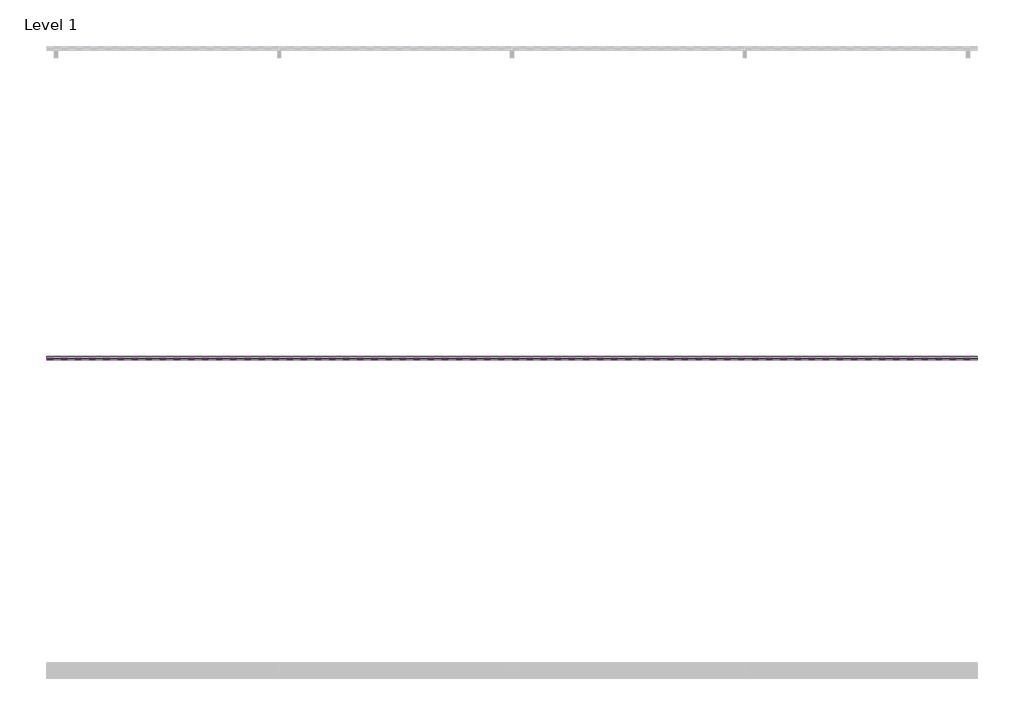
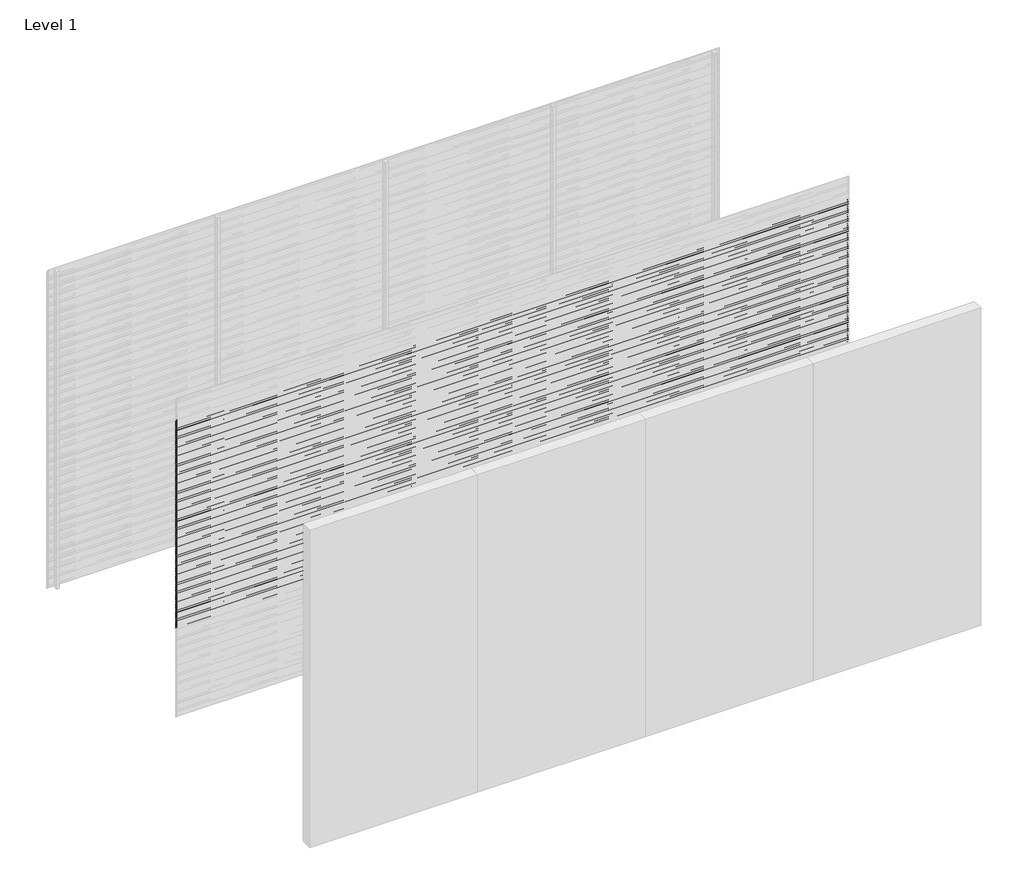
# One storey, part 17 of 31: 98 proxies.
"""IFC4 building model written with IfcOpenShell, lengths in millimetres."""

from ifc_helpers import new_model, si_unit, frame, origin, place, context, project, spatial, polyline, outline, extrude, element, save

model = new_model("IFC4")

# Units and contexts
model_context = context("Model", 3, world=origin())
ifc_project = project(units=[si_unit("LENGTHUNIT", "METRE", prefix="MILLI")], contexts=[model_context])

# Site, building, storey
site = spatial("IfcSite", under=ifc_project)
building = spatial("IfcBuilding", under=site)
storey = spatial("IfcBuildingStorey", under=building, Name="Level 1", Elevation=0.0)

# Proxies
placement = place(None, origin())
element("IfcBuildingElementProxy", 1, Name="Wall Sweeps", at=placement, inside=storey, context=model_context, shape_type="SweptSolid", body=[
    extrude(outline(polyline([(-7995.0, 2800.0), (-7995.0, 2788.942893), (-7976.0, 2773.0), (-7976.0, 2760.0), (-7997.0, 2777.6210923), (-7997.0, 2800.0), (-7995.0, 2800.0)])), frame((0.0, 0.0, 0.0), z_axis=(1.0, 0.0, 0.0), x_axis=(0.0, 1.0, 0.0)), (0.0, 0.0, 1.0), 6000.0),
])
element("IfcBuildingElementProxy", 2, Name="Wall Sweeps", at=placement, inside=storey, context=model_context, shape_type="SweptSolid", body=[
    extrude(outline(polyline([(-7995.0, 2780.0), (-7995.0, 2768.942893), (-7976.0, 2753.0), (-7976.0, 2740.0), (-7997.0, 2757.6210923), (-7997.0, 2780.0), (-7995.0, 2780.0)])), frame((0.0, 0.0, 0.0), z_axis=(1.0, 0.0, 0.0), x_axis=(0.0, 1.0, 0.0)), (0.0, 0.0, 1.0), 6000.0),
])
element("IfcBuildingElementProxy", 3, Name="Wall Sweeps", at=placement, inside=storey, context=model_context, shape_type="SweptSolid", body=[
    extrude(outline(polyline([(-7995.0, 2760.0), (-7995.0, 2748.942893), (-7976.0, 2733.0), (-7976.0, 2720.0), (-7997.0, 2737.6210923), (-7997.0, 2760.0), (-7995.0, 2760.0)])), frame((0.0, 0.0, 0.0), z_axis=(1.0, 0.0, 0.0), x_axis=(0.0, 1.0, 0.0)), (0.0, 0.0, 1.0), 6000.0),
])
element("IfcBuildingElementProxy", 4, Name="Wall Sweeps", at=placement, inside=storey, context=model_context, shape_type="SweptSolid", body=[
    extrude(outline(polyline([(-7995.0, 2740.0), (-7995.0, 2728.942893), (-7976.0, 2713.0), (-7976.0, 2700.0), (-7997.0, 2717.6210923), (-7997.0, 2740.0), (-7995.0, 2740.0)])), frame((0.0, 0.0, 0.0), z_axis=(1.0, 0.0, 0.0), x_axis=(0.0, 1.0, 0.0)), (0.0, 0.0, 1.0), 6000.0),
])
element("IfcBuildingElementProxy", 5, Name="Wall Sweeps", at=placement, inside=storey, context=model_context, shape_type="SweptSolid", body=[
    extrude(outline(polyline([(-7995.0, 2720.0), (-7995.0, 2708.942893), (-7976.0, 2693.0), (-7976.0, 2680.0), (-7997.0, 2697.6210923), (-7997.0, 2720.0), (-7995.0, 2720.0)])), frame((0.0, 0.0, 0.0), z_axis=(1.0, 0.0, 0.0), x_axis=(0.0, 1.0, 0.0)), (0.0, 0.0, 1.0), 6000.0),
])
element("IfcBuildingElementProxy", 6, Name="Wall Sweeps", at=placement, inside=storey, context=model_context, shape_type="SweptSolid", body=[
    extrude(outline(polyline([(-7995.0, 2700.0), (-7995.0, 2688.942893), (-7976.0, 2673.0), (-7976.0, 2660.0), (-7997.0, 2677.6210923), (-7997.0, 2700.0), (-7995.0, 2700.0)])), frame((0.0, 0.0, 0.0), z_axis=(1.0, 0.0, 0.0), x_axis=(0.0, 1.0, 0.0)), (0.0, 0.0, 1.0), 6000.0),
])
element("IfcBuildingElementProxy", 7, Name="Wall Sweeps", at=placement, inside=storey, context=model_context, shape_type="SweptSolid", body=[
    extrude(outline(polyline([(-7995.0, 2680.0), (-7995.0, 2668.942893), (-7976.0, 2653.0), (-7976.0, 2640.0), (-7997.0, 2657.6210923), (-7997.0, 2680.0), (-7995.0, 2680.0)])), frame((0.0, 0.0, 0.0), z_axis=(1.0, 0.0, 0.0), x_axis=(0.0, 1.0, 0.0)), (0.0, 0.0, 1.0), 6000.0),
])
element("IfcBuildingElementProxy", 8, Name="Wall Sweeps", at=placement, inside=storey, context=model_context, shape_type="SweptSolid", body=[
    extrude(outline(polyline([(-7995.0, 2660.0), (-7995.0, 2648.942893), (-7976.0, 2633.0), (-7976.0, 2620.0), (-7997.0, 2637.6210923), (-7997.0, 2660.0), (-7995.0, 2660.0)])), frame((0.0, 0.0, 0.0), z_axis=(1.0, 0.0, 0.0), x_axis=(0.0, 1.0, 0.0)), (0.0, 0.0, 1.0), 6000.0),
])
element("IfcBuildingElementProxy", 9, Name="Wall Sweeps", at=placement, inside=storey, context=model_context, shape_type="SweptSolid", body=[
    extrude(outline(polyline([(-7995.0, 2640.0), (-7995.0, 2628.942893), (-7976.0, 2613.0), (-7976.0, 2600.0), (-7997.0, 2617.6210923), (-7997.0, 2640.0), (-7995.0, 2640.0)])), frame((0.0, 0.0, 0.0), z_axis=(1.0, 0.0, 0.0), x_axis=(0.0, 1.0, 0.0)), (0.0, 0.0, 1.0), 6000.0),
])
element("IfcBuildingElementProxy", 10, Name="Wall Sweeps", at=placement, inside=storey, context=model_context, shape_type="SweptSolid", body=[
    extrude(outline(polyline([(-7995.0, 2620.0), (-7995.0, 2608.942893), (-7976.0, 2593.0), (-7976.0, 2580.0), (-7997.0, 2597.6210923), (-7997.0, 2620.0), (-7995.0, 2620.0)])), frame((0.0, 0.0, 0.0), z_axis=(1.0, 0.0, 0.0), x_axis=(0.0, 1.0, 0.0)), (0.0, 0.0, 1.0), 6000.0),
])
element("IfcBuildingElementProxy", 11, Name="Wall Sweeps", at=placement, inside=storey, context=model_context, shape_type="SweptSolid", body=[
    extrude(outline(polyline([(-7995.0, 2600.0), (-7995.0, 2588.942893), (-7976.0, 2573.0), (-7976.0, 2560.0), (-7997.0, 2577.6210923), (-7997.0, 2600.0), (-7995.0, 2600.0)])), frame((0.0, 0.0, 0.0), z_axis=(1.0, 0.0, 0.0), x_axis=(0.0, 1.0, 0.0)), (0.0, 0.0, 1.0), 6000.0),
])
element("IfcBuildingElementProxy", 12, Name="Wall Sweeps", at=placement, inside=storey, context=model_context, shape_type="SweptSolid", body=[
    extrude(outline(polyline([(-7995.0, 2580.0), (-7995.0, 2568.942893), (-7976.0, 2553.0), (-7976.0, 2540.0), (-7997.0, 2557.6210923), (-7997.0, 2580.0), (-7995.0, 2580.0)])), frame((0.0, 0.0, 0.0), z_axis=(1.0, 0.0, 0.0), x_axis=(0.0, 1.0, 0.0)), (0.0, 0.0, 1.0), 6000.0),
])
element("IfcBuildingElementProxy", 13, Name="Wall Sweeps", at=placement, inside=storey, context=model_context, shape_type="SweptSolid", body=[
    extrude(outline(polyline([(-7995.0, 2560.0), (-7995.0, 2548.942893), (-7976.0, 2533.0), (-7976.0, 2520.0), (-7997.0, 2537.6210923), (-7997.0, 2560.0), (-7995.0, 2560.0)])), frame((0.0, 0.0, 0.0), z_axis=(1.0, 0.0, 0.0), x_axis=(0.0, 1.0, 0.0)), (0.0, 0.0, 1.0), 6000.0),
])
element("IfcBuildingElementProxy", 14, Name="Wall Sweeps", at=placement, inside=storey, context=model_context, shape_type="SweptSolid", body=[
    extrude(outline(polyline([(-7995.0, 2540.0), (-7995.0, 2528.942893), (-7976.0, 2513.0), (-7976.0, 2500.0), (-7997.0, 2517.6210923), (-7997.0, 2540.0), (-7995.0, 2540.0)])), frame((0.0, 0.0, 0.0), z_axis=(1.0, 0.0, 0.0), x_axis=(0.0, 1.0, 0.0)), (0.0, 0.0, 1.0), 6000.0),
])
element("IfcBuildingElementProxy", 15, Name="Wall Sweeps", at=placement, inside=storey, context=model_context, shape_type="SweptSolid", body=[
    extrude(outline(polyline([(-7995.0, 2520.0), (-7995.0, 2508.942893), (-7976.0, 2493.0), (-7976.0, 2480.0), (-7997.0, 2497.6210923), (-7997.0, 2520.0), (-7995.0, 2520.0)])), frame((0.0, 0.0, 0.0), z_axis=(1.0, 0.0, 0.0), x_axis=(0.0, 1.0, 0.0)), (0.0, 0.0, 1.0), 6000.0),
])
element("IfcBuildingElementProxy", 16, Name="Wall Sweeps", at=placement, inside=storey, context=model_context, shape_type="SweptSolid", body=[
    extrude(outline(polyline([(-7995.0, 2500.0), (-7995.0, 2488.942893), (-7976.0, 2473.0), (-7976.0, 2460.0), (-7997.0, 2477.6210923), (-7997.0, 2500.0), (-7995.0, 2500.0)])), frame((0.0, 0.0, 0.0), z_axis=(1.0, 0.0, 0.0), x_axis=(0.0, 1.0, 0.0)), (0.0, 0.0, 1.0), 6000.0),
])
element("IfcBuildingElementProxy", 17, Name="Wall Sweeps", at=placement, inside=storey, context=model_context, shape_type="SweptSolid", body=[
    extrude(outline(polyline([(-7995.0, 2480.0), (-7995.0, 2468.942893), (-7976.0, 2453.0), (-7976.0, 2440.0), (-7997.0, 2457.6210923), (-7997.0, 2480.0), (-7995.0, 2480.0)])), frame((0.0, 0.0, 0.0), z_axis=(1.0, 0.0, 0.0), x_axis=(0.0, 1.0, 0.0)), (0.0, 0.0, 1.0), 6000.0),
])
element("IfcBuildingElementProxy", 18, Name="Wall Sweeps", at=placement, inside=storey, context=model_context, shape_type="SweptSolid", body=[
    extrude(outline(polyline([(-7995.0, 2460.0), (-7995.0, 2448.942893), (-7976.0, 2433.0), (-7976.0, 2420.0), (-7997.0, 2437.6210923), (-7997.0, 2460.0), (-7995.0, 2460.0)])), frame((0.0, 0.0, 0.0), z_axis=(1.0, 0.0, 0.0), x_axis=(0.0, 1.0, 0.0)), (0.0, 0.0, 1.0), 6000.0),
])
element("IfcBuildingElementProxy", 19, Name="Wall Sweeps", at=placement, inside=storey, context=model_context, shape_type="SweptSolid", body=[
    extrude(outline(polyline([(-7995.0, 2440.0), (-7995.0, 2428.942893), (-7976.0, 2413.0), (-7976.0, 2400.0), (-7997.0, 2417.6210923), (-7997.0, 2440.0), (-7995.0, 2440.0)])), frame((0.0, 0.0, 0.0), z_axis=(1.0, 0.0, 0.0), x_axis=(0.0, 1.0, 0.0)), (0.0, 0.0, 1.0), 6000.0),
])
element("IfcBuildingElementProxy", 20, Name="Wall Sweeps", at=placement, inside=storey, context=model_context, shape_type="SweptSolid", body=[
    extrude(outline(polyline([(-7995.0, 2420.0), (-7995.0, 2408.942893), (-7976.0, 2393.0), (-7976.0, 2380.0), (-7997.0, 2397.6210923), (-7997.0, 2420.0), (-7995.0, 2420.0)])), frame((0.0, 0.0, 0.0), z_axis=(1.0, 0.0, 0.0), x_axis=(0.0, 1.0, 0.0)), (0.0, 0.0, 1.0), 6000.0),
])
element("IfcBuildingElementProxy", 21, Name="Wall Sweeps", at=placement, inside=storey, context=model_context, shape_type="SweptSolid", body=[
    extrude(outline(polyline([(-7995.0, 2400.0), (-7995.0, 2388.942893), (-7976.0, 2373.0), (-7976.0, 2360.0), (-7997.0, 2377.6210923), (-7997.0, 2400.0), (-7995.0, 2400.0)])), frame((0.0, 0.0, 0.0), z_axis=(1.0, 0.0, 0.0), x_axis=(0.0, 1.0, 0.0)), (0.0, 0.0, 1.0), 6000.0),
])
element("IfcBuildingElementProxy", 22, Name="Wall Sweeps", at=placement, inside=storey, context=model_context, shape_type="SweptSolid", body=[
    extrude(outline(polyline([(-7995.0, 2380.0), (-7995.0, 2368.942893), (-7976.0, 2353.0), (-7976.0, 2340.0), (-7997.0, 2357.6210923), (-7997.0, 2380.0), (-7995.0, 2380.0)])), frame((0.0, 0.0, 0.0), z_axis=(1.0, 0.0, 0.0), x_axis=(0.0, 1.0, 0.0)), (0.0, 0.0, 1.0), 6000.0),
])
element("IfcBuildingElementProxy", 23, Name="Wall Sweeps", at=placement, inside=storey, context=model_context, shape_type="SweptSolid", body=[
    extrude(outline(polyline([(-7995.0, 2360.0), (-7995.0, 2348.942893), (-7976.0, 2333.0), (-7976.0, 2320.0), (-7997.0, 2337.6210923), (-7997.0, 2360.0), (-7995.0, 2360.0)])), frame((0.0, 0.0, 0.0), z_axis=(1.0, 0.0, 0.0), x_axis=(0.0, 1.0, 0.0)), (0.0, 0.0, 1.0), 6000.0),
])
element("IfcBuildingElementProxy", 24, Name="Wall Sweeps", at=placement, inside=storey, context=model_context, shape_type="SweptSolid", body=[
    extrude(outline(polyline([(-7995.0, 2340.0), (-7995.0, 2328.942893), (-7976.0, 2313.0), (-7976.0, 2300.0), (-7997.0, 2317.6210923), (-7997.0, 2340.0), (-7995.0, 2340.0)])), frame((0.0, 0.0, 0.0), z_axis=(1.0, 0.0, 0.0), x_axis=(0.0, 1.0, 0.0)), (0.0, 0.0, 1.0), 6000.0),
])
element("IfcBuildingElementProxy", 25, Name="Wall Sweeps", at=placement, inside=storey, context=model_context, shape_type="SweptSolid", body=[
    extrude(outline(polyline([(-7995.0, 2320.0), (-7995.0, 2308.942893), (-7976.0, 2293.0), (-7976.0, 2280.0), (-7997.0, 2297.6210923), (-7997.0, 2320.0), (-7995.0, 2320.0)])), frame((0.0, 0.0, 0.0), z_axis=(1.0, 0.0, 0.0), x_axis=(0.0, 1.0, 0.0)), (0.0, 0.0, 1.0), 6000.0),
])
element("IfcBuildingElementProxy", 26, Name="Wall Sweeps", at=placement, inside=storey, context=model_context, shape_type="SweptSolid", body=[
    extrude(outline(polyline([(-7995.0, 2300.0), (-7995.0, 2288.942893), (-7976.0, 2273.0), (-7976.0, 2260.0), (-7997.0, 2277.6210923), (-7997.0, 2300.0), (-7995.0, 2300.0)])), frame((0.0, 0.0, 0.0), z_axis=(1.0, 0.0, 0.0), x_axis=(0.0, 1.0, 0.0)), (0.0, 0.0, 1.0), 6000.0),
])
element("IfcBuildingElementProxy", 27, Name="Wall Sweeps", at=placement, inside=storey, context=model_context, shape_type="SweptSolid", body=[
    extrude(outline(polyline([(-7995.0, 2280.0), (-7995.0, 2268.942893), (-7976.0, 2253.0), (-7976.0, 2240.0), (-7997.0, 2257.6210923), (-7997.0, 2280.0), (-7995.0, 2280.0)])), frame((0.0, 0.0, 0.0), z_axis=(1.0, 0.0, 0.0), x_axis=(0.0, 1.0, 0.0)), (0.0, 0.0, 1.0), 6000.0),
])
element("IfcBuildingElementProxy", 28, Name="Wall Sweeps", at=placement, inside=storey, context=model_context, shape_type="SweptSolid", body=[
    extrude(outline(polyline([(-7995.0, 2260.0), (-7995.0, 2248.942893), (-7976.0, 2233.0), (-7976.0, 2220.0), (-7997.0, 2237.6210923), (-7997.0, 2260.0), (-7995.0, 2260.0)])), frame((0.0, 0.0, 0.0), z_axis=(1.0, 0.0, 0.0), x_axis=(0.0, 1.0, 0.0)), (0.0, 0.0, 1.0), 6000.0),
])
element("IfcBuildingElementProxy", 29, Name="Wall Sweeps", at=placement, inside=storey, context=model_context, shape_type="SweptSolid", body=[
    extrude(outline(polyline([(-7995.0, 2240.0), (-7995.0, 2228.942893), (-7976.0, 2213.0), (-7976.0, 2200.0), (-7997.0, 2217.6210923), (-7997.0, 2240.0), (-7995.0, 2240.0)])), frame((0.0, 0.0, 0.0), z_axis=(1.0, 0.0, 0.0), x_axis=(0.0, 1.0, 0.0)), (0.0, 0.0, 1.0), 6000.0),
])
element("IfcBuildingElementProxy", 30, Name="Wall Sweeps", at=placement, inside=storey, context=model_context, shape_type="SweptSolid", body=[
    extrude(outline(polyline([(-7995.0, 2220.0), (-7995.0, 2208.942893), (-7976.0, 2193.0), (-7976.0, 2180.0), (-7997.0, 2197.6210923), (-7997.0, 2220.0), (-7995.0, 2220.0)])), frame((0.0, 0.0, 0.0), z_axis=(1.0, 0.0, 0.0), x_axis=(0.0, 1.0, 0.0)), (0.0, 0.0, 1.0), 6000.0),
])
element("IfcBuildingElementProxy", 31, Name="Wall Sweeps", at=placement, inside=storey, context=model_context, shape_type="SweptSolid", body=[
    extrude(outline(polyline([(-7995.0, 2200.0), (-7995.0, 2188.942893), (-7976.0, 2173.0), (-7976.0, 2160.0), (-7997.0, 2177.6210923), (-7997.0, 2200.0), (-7995.0, 2200.0)])), frame((0.0, 0.0, 0.0), z_axis=(1.0, 0.0, 0.0), x_axis=(0.0, 1.0, 0.0)), (0.0, 0.0, 1.0), 6000.0),
])
element("IfcBuildingElementProxy", 32, Name="Wall Sweeps", at=placement, inside=storey, context=model_context, shape_type="SweptSolid", body=[
    extrude(outline(polyline([(-7995.0, 2180.0), (-7995.0, 2168.942893), (-7976.0, 2153.0), (-7976.0, 2140.0), (-7997.0, 2157.6210923), (-7997.0, 2180.0), (-7995.0, 2180.0)])), frame((0.0, 0.0, 0.0), z_axis=(1.0, 0.0, 0.0), x_axis=(0.0, 1.0, 0.0)), (0.0, 0.0, 1.0), 6000.0),
])
element("IfcBuildingElementProxy", 33, Name="Wall Sweeps", at=placement, inside=storey, context=model_context, shape_type="SweptSolid", body=[
    extrude(outline(polyline([(-7995.0, 2160.0), (-7995.0, 2148.942893), (-7976.0, 2133.0), (-7976.0, 2120.0), (-7997.0, 2137.6210923), (-7997.0, 2160.0), (-7995.0, 2160.0)])), frame((0.0, 0.0, 0.0), z_axis=(1.0, 0.0, 0.0), x_axis=(0.0, 1.0, 0.0)), (0.0, 0.0, 1.0), 6000.0),
])
element("IfcBuildingElementProxy", 34, Name="Wall Sweeps", at=placement, inside=storey, context=model_context, shape_type="SweptSolid", body=[
    extrude(outline(polyline([(-7995.0, 2140.0), (-7995.0, 2128.942893), (-7976.0, 2113.0), (-7976.0, 2100.0), (-7997.0, 2117.6210923), (-7997.0, 2140.0), (-7995.0, 2140.0)])), frame((0.0, 0.0, 0.0), z_axis=(1.0, 0.0, 0.0), x_axis=(0.0, 1.0, 0.0)), (0.0, 0.0, 1.0), 6000.0),
])
element("IfcBuildingElementProxy", 35, Name="Wall Sweeps", at=placement, inside=storey, context=model_context, shape_type="SweptSolid", body=[
    extrude(outline(polyline([(-7995.0, 2120.0), (-7995.0, 2108.942893), (-7976.0, 2093.0), (-7976.0, 2080.0), (-7997.0, 2097.6210923), (-7997.0, 2120.0), (-7995.0, 2120.0)])), frame((0.0, 0.0, 0.0), z_axis=(1.0, 0.0, 0.0), x_axis=(0.0, 1.0, 0.0)), (0.0, 0.0, 1.0), 6000.0),
])
element("IfcBuildingElementProxy", 36, Name="Wall Sweeps", at=placement, inside=storey, context=model_context, shape_type="SweptSolid", body=[
    extrude(outline(polyline([(-7995.0, 2100.0), (-7995.0, 2088.942893), (-7976.0, 2073.0), (-7976.0, 2060.0), (-7997.0, 2077.6210923), (-7997.0, 2100.0), (-7995.0, 2100.0)])), frame((0.0, 0.0, 0.0), z_axis=(1.0, 0.0, 0.0), x_axis=(0.0, 1.0, 0.0)), (0.0, 0.0, 1.0), 6000.0),
])
element("IfcBuildingElementProxy", 37, Name="Wall Sweeps", at=placement, inside=storey, context=model_context, shape_type="SweptSolid", body=[
    extrude(outline(polyline([(-7995.0, 2080.0), (-7995.0, 2068.942893), (-7976.0, 2053.0), (-7976.0, 2040.0), (-7997.0, 2057.6210923), (-7997.0, 2080.0), (-7995.0, 2080.0)])), frame((0.0, 0.0, 0.0), z_axis=(1.0, 0.0, 0.0), x_axis=(0.0, 1.0, 0.0)), (0.0, 0.0, 1.0), 6000.0),
])
element("IfcBuildingElementProxy", 38, Name="Wall Sweeps", at=placement, inside=storey, context=model_context, shape_type="SweptSolid", body=[
    extrude(outline(polyline([(-7995.0, 2060.0), (-7995.0, 2048.942893), (-7976.0, 2033.0), (-7976.0, 2020.0), (-7997.0, 2037.6210923), (-7997.0, 2060.0), (-7995.0, 2060.0)])), frame((0.0, 0.0, 0.0), z_axis=(1.0, 0.0, 0.0), x_axis=(0.0, 1.0, 0.0)), (0.0, 0.0, 1.0), 6000.0),
])
element("IfcBuildingElementProxy", 39, Name="Wall Sweeps", at=placement, inside=storey, context=model_context, shape_type="SweptSolid", body=[
    extrude(outline(polyline([(-7995.0, 2040.0), (-7995.0, 2028.942893), (-7976.0, 2013.0), (-7976.0, 2000.0), (-7997.0, 2017.6210923), (-7997.0, 2040.0), (-7995.0, 2040.0)])), frame((0.0, 0.0, 0.0), z_axis=(1.0, 0.0, 0.0), x_axis=(0.0, 1.0, 0.0)), (0.0, 0.0, 1.0), 6000.0),
])
element("IfcBuildingElementProxy", 40, Name="Wall Sweeps", at=placement, inside=storey, context=model_context, shape_type="SweptSolid", body=[
    extrude(outline(polyline([(-7995.0, 2020.0), (-7995.0, 2008.942893), (-7976.0, 1993.0), (-7976.0, 1980.0), (-7997.0, 1997.6210923), (-7997.0, 2020.0), (-7995.0, 2020.0)])), frame((0.0, 0.0, 0.0), z_axis=(1.0, 0.0, 0.0), x_axis=(0.0, 1.0, 0.0)), (0.0, 0.0, 1.0), 6000.0),
])
element("IfcBuildingElementProxy", 41, Name="Wall Sweeps", at=placement, inside=storey, context=model_context, shape_type="SweptSolid", body=[
    extrude(outline(polyline([(-7995.0, 2000.0), (-7995.0, 1988.942893), (-7976.0, 1973.0), (-7976.0, 1960.0), (-7997.0, 1977.6210923), (-7997.0, 2000.0), (-7995.0, 2000.0)])), frame((0.0, 0.0, 0.0), z_axis=(1.0, 0.0, 0.0), x_axis=(0.0, 1.0, 0.0)), (0.0, 0.0, 1.0), 6000.0),
])
element("IfcBuildingElementProxy", 42, Name="Wall Sweeps", at=placement, inside=storey, context=model_context, shape_type="SweptSolid", body=[
    extrude(outline(polyline([(-7995.0, 1980.0), (-7995.0, 1968.942893), (-7976.0, 1953.0), (-7976.0, 1940.0), (-7997.0, 1957.6210923), (-7997.0, 1980.0), (-7995.0, 1980.0)])), frame((0.0, 0.0, 0.0), z_axis=(1.0, 0.0, 0.0), x_axis=(0.0, 1.0, 0.0)), (0.0, 0.0, 1.0), 6000.0),
])
element("IfcBuildingElementProxy", 43, Name="Wall Sweeps", at=placement, inside=storey, context=model_context, shape_type="SweptSolid", body=[
    extrude(outline(polyline([(-7995.0, 1960.0), (-7995.0, 1948.942893), (-7976.0, 1933.0), (-7976.0, 1920.0), (-7997.0, 1937.6210923), (-7997.0, 1960.0), (-7995.0, 1960.0)])), frame((0.0, 0.0, 0.0), z_axis=(1.0, 0.0, 0.0), x_axis=(0.0, 1.0, 0.0)), (0.0, 0.0, 1.0), 6000.0),
])
element("IfcBuildingElementProxy", 44, Name="Wall Sweeps", at=placement, inside=storey, context=model_context, shape_type="SweptSolid", body=[
    extrude(outline(polyline([(-7995.0, 1940.0), (-7995.0, 1928.942893), (-7976.0, 1913.0), (-7976.0, 1900.0), (-7997.0, 1917.6210923), (-7997.0, 1940.0), (-7995.0, 1940.0)])), frame((0.0, 0.0, 0.0), z_axis=(1.0, 0.0, 0.0), x_axis=(0.0, 1.0, 0.0)), (0.0, 0.0, 1.0), 6000.0),
])
element("IfcBuildingElementProxy", 45, Name="Wall Sweeps", at=placement, inside=storey, context=model_context, shape_type="SweptSolid", body=[
    extrude(outline(polyline([(-7995.0, 1920.0), (-7995.0, 1908.942893), (-7976.0, 1893.0), (-7976.0, 1880.0), (-7997.0, 1897.6210923), (-7997.0, 1920.0), (-7995.0, 1920.0)])), frame((0.0, 0.0, 0.0), z_axis=(1.0, 0.0, 0.0), x_axis=(0.0, 1.0, 0.0)), (0.0, 0.0, 1.0), 6000.0),
])
element("IfcBuildingElementProxy", 46, Name="Wall Sweeps", at=placement, inside=storey, context=model_context, shape_type="SweptSolid", body=[
    extrude(outline(polyline([(-7995.0, 1900.0), (-7995.0, 1888.942893), (-7976.0, 1873.0), (-7976.0, 1860.0), (-7997.0, 1877.6210923), (-7997.0, 1900.0), (-7995.0, 1900.0)])), frame((0.0, 0.0, 0.0), z_axis=(1.0, 0.0, 0.0), x_axis=(0.0, 1.0, 0.0)), (0.0, 0.0, 1.0), 6000.0),
])
element("IfcBuildingElementProxy", 47, Name="Wall Sweeps", at=placement, inside=storey, context=model_context, shape_type="SweptSolid", body=[
    extrude(outline(polyline([(-7995.0, 1880.0), (-7995.0, 1868.942893), (-7976.0, 1853.0), (-7976.0, 1840.0), (-7997.0, 1857.6210923), (-7997.0, 1880.0), (-7995.0, 1880.0)])), frame((0.0, 0.0, 0.0), z_axis=(1.0, 0.0, 0.0), x_axis=(0.0, 1.0, 0.0)), (0.0, 0.0, 1.0), 6000.0),
])
element("IfcBuildingElementProxy", 48, Name="Wall Sweeps", at=placement, inside=storey, context=model_context, shape_type="SweptSolid", body=[
    extrude(outline(polyline([(-7995.0, 1860.0), (-7995.0, 1848.942893), (-7976.0, 1833.0), (-7976.0, 1820.0), (-7997.0, 1837.6210923), (-7997.0, 1860.0), (-7995.0, 1860.0)])), frame((0.0, 0.0, 0.0), z_axis=(1.0, 0.0, 0.0), x_axis=(0.0, 1.0, 0.0)), (0.0, 0.0, 1.0), 6000.0),
])
element("IfcBuildingElementProxy", 49, Name="Wall Sweeps", at=placement, inside=storey, context=model_context, shape_type="SweptSolid", body=[
    extrude(outline(polyline([(-7995.0, 1840.0), (-7995.0, 1828.942893), (-7976.0, 1813.0), (-7976.0, 1800.0), (-7997.0, 1817.6210923), (-7997.0, 1840.0), (-7995.0, 1840.0)])), frame((0.0, 0.0, 0.0), z_axis=(1.0, 0.0, 0.0), x_axis=(0.0, 1.0, 0.0)), (0.0, 0.0, 1.0), 6000.0),
])
element("IfcBuildingElementProxy", 50, Name="Wall Sweeps", at=placement, inside=storey, context=model_context, shape_type="SweptSolid", body=[
    extrude(outline(polyline([(-7995.0, 1820.0), (-7995.0, 1808.942893), (-7976.0, 1793.0), (-7976.0, 1780.0), (-7997.0, 1797.6210923), (-7997.0, 1820.0), (-7995.0, 1820.0)])), frame((0.0, 0.0, 0.0), z_axis=(1.0, 0.0, 0.0), x_axis=(0.0, 1.0, 0.0)), (0.0, 0.0, 1.0), 6000.0),
])
element("IfcBuildingElementProxy", 51, Name="Wall Sweeps", at=placement, inside=storey, context=model_context, shape_type="SweptSolid", body=[
    extrude(outline(polyline([(-7995.0, 1800.0), (-7995.0, 1788.942893), (-7976.0, 1773.0), (-7976.0, 1760.0), (-7997.0, 1777.6210923), (-7997.0, 1800.0), (-7995.0, 1800.0)])), frame((0.0, 0.0, 0.0), z_axis=(1.0, 0.0, 0.0), x_axis=(0.0, 1.0, 0.0)), (0.0, 0.0, 1.0), 6000.0),
])
element("IfcBuildingElementProxy", 52, Name="Wall Sweeps", at=placement, inside=storey, context=model_context, shape_type="SweptSolid", body=[
    extrude(outline(polyline([(-7995.0, 1780.0), (-7995.0, 1768.942893), (-7976.0, 1753.0), (-7976.0, 1740.0), (-7997.0, 1757.6210923), (-7997.0, 1780.0), (-7995.0, 1780.0)])), frame((0.0, 0.0, 0.0), z_axis=(1.0, 0.0, 0.0), x_axis=(0.0, 1.0, 0.0)), (0.0, 0.0, 1.0), 6000.0),
])
element("IfcBuildingElementProxy", 53, Name="Wall Sweeps", at=placement, inside=storey, context=model_context, shape_type="SweptSolid", body=[
    extrude(outline(polyline([(-7995.0, 1760.0), (-7995.0, 1748.942893), (-7976.0, 1733.0), (-7976.0, 1720.0), (-7997.0, 1737.6210923), (-7997.0, 1760.0), (-7995.0, 1760.0)])), frame((0.0, 0.0, 0.0), z_axis=(1.0, 0.0, 0.0), x_axis=(0.0, 1.0, 0.0)), (0.0, 0.0, 1.0), 6000.0),
])
element("IfcBuildingElementProxy", 54, Name="Wall Sweeps", at=placement, inside=storey, context=model_context, shape_type="SweptSolid", body=[
    extrude(outline(polyline([(-7995.0, 1740.0), (-7995.0, 1728.942893), (-7976.0, 1713.0), (-7976.0, 1700.0), (-7997.0, 1717.6210923), (-7997.0, 1740.0), (-7995.0, 1740.0)])), frame((0.0, 0.0, 0.0), z_axis=(1.0, 0.0, 0.0), x_axis=(0.0, 1.0, 0.0)), (0.0, 0.0, 1.0), 6000.0),
])
element("IfcBuildingElementProxy", 55, Name="Wall Sweeps", at=placement, inside=storey, context=model_context, shape_type="SweptSolid", body=[
    extrude(outline(polyline([(-7995.0, 1720.0), (-7995.0, 1708.942893), (-7976.0, 1693.0), (-7976.0, 1680.0), (-7997.0, 1697.6210923), (-7997.0, 1720.0), (-7995.0, 1720.0)])), frame((0.0, 0.0, 0.0), z_axis=(1.0, 0.0, 0.0), x_axis=(0.0, 1.0, 0.0)), (0.0, 0.0, 1.0), 6000.0),
])
element("IfcBuildingElementProxy", 56, Name="Wall Sweeps", at=placement, inside=storey, context=model_context, shape_type="SweptSolid", body=[
    extrude(outline(polyline([(-7995.0, 1700.0), (-7995.0, 1688.942893), (-7976.0, 1673.0), (-7976.0, 1660.0), (-7997.0, 1677.6210923), (-7997.0, 1700.0), (-7995.0, 1700.0)])), frame((0.0, 0.0, 0.0), z_axis=(1.0, 0.0, 0.0), x_axis=(0.0, 1.0, 0.0)), (0.0, 0.0, 1.0), 6000.0),
])
element("IfcBuildingElementProxy", 57, Name="Wall Sweeps", at=placement, inside=storey, context=model_context, shape_type="SweptSolid", body=[
    extrude(outline(polyline([(-7995.0, 1680.0), (-7995.0, 1668.942893), (-7976.0, 1653.0), (-7976.0, 1640.0), (-7997.0, 1657.6210923), (-7997.0, 1680.0), (-7995.0, 1680.0)])), frame((0.0, 0.0, 0.0), z_axis=(1.0, 0.0, 0.0), x_axis=(0.0, 1.0, 0.0)), (0.0, 0.0, 1.0), 6000.0),
])
element("IfcBuildingElementProxy", 58, Name="Wall Sweeps", at=placement, inside=storey, context=model_context, shape_type="SweptSolid", body=[
    extrude(outline(polyline([(-7995.0, 1660.0), (-7995.0, 1648.942893), (-7976.0, 1633.0), (-7976.0, 1620.0), (-7997.0, 1637.6210923), (-7997.0, 1660.0), (-7995.0, 1660.0)])), frame((0.0, 0.0, 0.0), z_axis=(1.0, 0.0, 0.0), x_axis=(0.0, 1.0, 0.0)), (0.0, 0.0, 1.0), 6000.0),
])
element("IfcBuildingElementProxy", 59, Name="Wall Sweeps", at=placement, inside=storey, context=model_context, shape_type="SweptSolid", body=[
    extrude(outline(polyline([(-7995.0, 1640.0), (-7995.0, 1628.942893), (-7976.0, 1613.0), (-7976.0, 1600.0), (-7997.0, 1617.6210923), (-7997.0, 1640.0), (-7995.0, 1640.0)])), frame((0.0, 0.0, 0.0), z_axis=(1.0, 0.0, 0.0), x_axis=(0.0, 1.0, 0.0)), (0.0, 0.0, 1.0), 6000.0),
])
element("IfcBuildingElementProxy", 60, Name="Wall Sweeps", at=placement, inside=storey, context=model_context, shape_type="SweptSolid", body=[
    extrude(outline(polyline([(-7995.0, 1620.0), (-7995.0, 1608.942893), (-7976.0, 1593.0), (-7976.0, 1580.0), (-7997.0, 1597.6210923), (-7997.0, 1620.0), (-7995.0, 1620.0)])), frame((0.0, 0.0, 0.0), z_axis=(1.0, 0.0, 0.0), x_axis=(0.0, 1.0, 0.0)), (0.0, 0.0, 1.0), 6000.0),
])
element("IfcBuildingElementProxy", 61, Name="Wall Sweeps", at=placement, inside=storey, context=model_context, shape_type="SweptSolid", body=[
    extrude(outline(polyline([(-7995.0, 1600.0), (-7995.0, 1588.942893), (-7976.0, 1573.0), (-7976.0, 1560.0), (-7997.0, 1577.6210923), (-7997.0, 1600.0), (-7995.0, 1600.0)])), frame((0.0, 0.0, 0.0), z_axis=(1.0, 0.0, 0.0), x_axis=(0.0, 1.0, 0.0)), (0.0, 0.0, 1.0), 6000.0),
])
element("IfcBuildingElementProxy", 62, Name="Wall Sweeps", at=placement, inside=storey, context=model_context, shape_type="SweptSolid", body=[
    extrude(outline(polyline([(-7995.0, 1580.0), (-7995.0, 1568.942893), (-7976.0, 1553.0), (-7976.0, 1540.0), (-7997.0, 1557.6210923), (-7997.0, 1580.0), (-7995.0, 1580.0)])), frame((0.0, 0.0, 0.0), z_axis=(1.0, 0.0, 0.0), x_axis=(0.0, 1.0, 0.0)), (0.0, 0.0, 1.0), 6000.0),
])
element("IfcBuildingElementProxy", 63, Name="Wall Sweeps", at=placement, inside=storey, context=model_context, shape_type="SweptSolid", body=[
    extrude(outline(polyline([(-7995.0, 1560.0), (-7995.0, 1548.942893), (-7976.0, 1533.0), (-7976.0, 1520.0), (-7997.0, 1537.6210923), (-7997.0, 1560.0), (-7995.0, 1560.0)])), frame((0.0, 0.0, 0.0), z_axis=(1.0, 0.0, 0.0), x_axis=(0.0, 1.0, 0.0)), (0.0, 0.0, 1.0), 6000.0),
])
element("IfcBuildingElementProxy", 64, Name="Wall Sweeps", at=placement, inside=storey, context=model_context, shape_type="SweptSolid", body=[
    extrude(outline(polyline([(-7995.0, 1540.0), (-7995.0, 1528.942893), (-7976.0, 1513.0), (-7976.0, 1500.0), (-7997.0, 1517.6210923), (-7997.0, 1540.0), (-7995.0, 1540.0)])), frame((0.0, 0.0, 0.0), z_axis=(1.0, 0.0, 0.0), x_axis=(0.0, 1.0, 0.0)), (0.0, 0.0, 1.0), 6000.0),
])
element("IfcBuildingElementProxy", 65, Name="Wall Sweeps", at=placement, inside=storey, context=model_context, shape_type="SweptSolid", body=[
    extrude(outline(polyline([(-7995.0, 1520.0), (-7995.0, 1508.942893), (-7976.0, 1493.0), (-7976.0, 1480.0), (-7997.0, 1497.6210923), (-7997.0, 1520.0), (-7995.0, 1520.0)])), frame((0.0, 0.0, 0.0), z_axis=(1.0, 0.0, 0.0), x_axis=(0.0, 1.0, 0.0)), (0.0, 0.0, 1.0), 6000.0),
])
element("IfcBuildingElementProxy", 66, Name="Wall Sweeps", at=placement, inside=storey, context=model_context, shape_type="SweptSolid", body=[
    extrude(outline(polyline([(-7995.0, 1500.0), (-7995.0, 1488.942893), (-7976.0, 1473.0), (-7976.0, 1460.0), (-7997.0, 1477.6210923), (-7997.0, 1500.0), (-7995.0, 1500.0)])), frame((0.0, 0.0, 0.0), z_axis=(1.0, 0.0, 0.0), x_axis=(0.0, 1.0, 0.0)), (0.0, 0.0, 1.0), 6000.0),
])
element("IfcBuildingElementProxy", 67, Name="Wall Sweeps", at=placement, inside=storey, context=model_context, shape_type="SweptSolid", body=[
    extrude(outline(polyline([(-7995.0, 1480.0), (-7995.0, 1468.942893), (-7976.0, 1453.0), (-7976.0, 1440.0), (-7997.0, 1457.6210923), (-7997.0, 1480.0), (-7995.0, 1480.0)])), frame((0.0, 0.0, 0.0), z_axis=(1.0, 0.0, 0.0), x_axis=(0.0, 1.0, 0.0)), (0.0, 0.0, 1.0), 6000.0),
])
element("IfcBuildingElementProxy", 68, Name="Wall Sweeps", at=placement, inside=storey, context=model_context, shape_type="SweptSolid", body=[
    extrude(outline(polyline([(-7995.0, 1460.0), (-7995.0, 1448.942893), (-7976.0, 1433.0), (-7976.0, 1420.0), (-7997.0, 1437.6210923), (-7997.0, 1460.0), (-7995.0, 1460.0)])), frame((0.0, 0.0, 0.0), z_axis=(1.0, 0.0, 0.0), x_axis=(0.0, 1.0, 0.0)), (0.0, 0.0, 1.0), 6000.0),
])
element("IfcBuildingElementProxy", 69, Name="Wall Sweeps", at=placement, inside=storey, context=model_context, shape_type="SweptSolid", body=[
    extrude(outline(polyline([(-7995.0, 1440.0), (-7995.0, 1428.942893), (-7976.0, 1413.0), (-7976.0, 1400.0), (-7997.0, 1417.6210923), (-7997.0, 1440.0), (-7995.0, 1440.0)])), frame((0.0, 0.0, 0.0), z_axis=(1.0, 0.0, 0.0), x_axis=(0.0, 1.0, 0.0)), (0.0, 0.0, 1.0), 6000.0),
])
element("IfcBuildingElementProxy", 70, Name="Wall Sweeps", at=placement, inside=storey, context=model_context, shape_type="SweptSolid", body=[
    extrude(outline(polyline([(-7995.0, 1420.0), (-7995.0, 1408.942893), (-7976.0, 1393.0), (-7976.0, 1380.0), (-7997.0, 1397.6210923), (-7997.0, 1420.0), (-7995.0, 1420.0)])), frame((0.0, 0.0, 0.0), z_axis=(1.0, 0.0, 0.0), x_axis=(0.0, 1.0, 0.0)), (0.0, 0.0, 1.0), 6000.0),
])
element("IfcBuildingElementProxy", 71, Name="Wall Sweeps", at=placement, inside=storey, context=model_context, shape_type="SweptSolid", body=[
    extrude(outline(polyline([(-7995.0, 1400.0), (-7995.0, 1388.942893), (-7976.0, 1373.0), (-7976.0, 1360.0), (-7997.0, 1377.6210923), (-7997.0, 1400.0), (-7995.0, 1400.0)])), frame((0.0, 0.0, 0.0), z_axis=(1.0, 0.0, 0.0), x_axis=(0.0, 1.0, 0.0)), (0.0, 0.0, 1.0), 6000.0),
])
element("IfcBuildingElementProxy", 72, Name="Wall Sweeps", at=placement, inside=storey, context=model_context, shape_type="SweptSolid", body=[
    extrude(outline(polyline([(-7995.0, 1380.0), (-7995.0, 1368.942893), (-7976.0, 1353.0), (-7976.0, 1340.0), (-7997.0, 1357.6210923), (-7997.0, 1380.0), (-7995.0, 1380.0)])), frame((0.0, 0.0, 0.0), z_axis=(1.0, 0.0, 0.0), x_axis=(0.0, 1.0, 0.0)), (0.0, 0.0, 1.0), 6000.0),
])
element("IfcBuildingElementProxy", 73, Name="Wall Sweeps", at=placement, inside=storey, context=model_context, shape_type="SweptSolid", body=[
    extrude(outline(polyline([(-7995.0, 1360.0), (-7995.0, 1348.942893), (-7976.0, 1333.0), (-7976.0, 1320.0), (-7997.0, 1337.6210923), (-7997.0, 1360.0), (-7995.0, 1360.0)])), frame((0.0, 0.0, 0.0), z_axis=(1.0, 0.0, 0.0), x_axis=(0.0, 1.0, 0.0)), (0.0, 0.0, 1.0), 6000.0),
])
element("IfcBuildingElementProxy", 74, Name="Wall Sweeps", at=placement, inside=storey, context=model_context, shape_type="SweptSolid", body=[
    extrude(outline(polyline([(-7995.0, 1340.0), (-7995.0, 1328.942893), (-7976.0, 1313.0), (-7976.0, 1300.0), (-7997.0, 1317.6210923), (-7997.0, 1340.0), (-7995.0, 1340.0)])), frame((0.0, 0.0, 0.0), z_axis=(1.0, 0.0, 0.0), x_axis=(0.0, 1.0, 0.0)), (0.0, 0.0, 1.0), 6000.0),
])
element("IfcBuildingElementProxy", 75, Name="Wall Sweeps", at=placement, inside=storey, context=model_context, shape_type="SweptSolid", body=[
    extrude(outline(polyline([(-7995.0, 1320.0), (-7995.0, 1308.942893), (-7976.0, 1293.0), (-7976.0, 1280.0), (-7997.0, 1297.6210923), (-7997.0, 1320.0), (-7995.0, 1320.0)])), frame((0.0, 0.0, 0.0), z_axis=(1.0, 0.0, 0.0), x_axis=(0.0, 1.0, 0.0)), (0.0, 0.0, 1.0), 6000.0),
])
element("IfcBuildingElementProxy", 76, Name="Wall Sweeps", at=placement, inside=storey, context=model_context, shape_type="SweptSolid", body=[
    extrude(outline(polyline([(-7995.0, 1300.0), (-7995.0, 1288.942893), (-7976.0, 1273.0), (-7976.0, 1260.0), (-7997.0, 1277.6210923), (-7997.0, 1300.0), (-7995.0, 1300.0)])), frame((0.0, 0.0, 0.0), z_axis=(1.0, 0.0, 0.0), x_axis=(0.0, 1.0, 0.0)), (0.0, 0.0, 1.0), 6000.0),
])
element("IfcBuildingElementProxy", 77, Name="Wall Sweeps", at=placement, inside=storey, context=model_context, shape_type="SweptSolid", body=[
    extrude(outline(polyline([(-7995.0, 1280.0), (-7995.0, 1268.942893), (-7976.0, 1253.0), (-7976.0, 1240.0), (-7997.0, 1257.6210923), (-7997.0, 1280.0), (-7995.0, 1280.0)])), frame((0.0, 0.0, 0.0), z_axis=(1.0, 0.0, 0.0), x_axis=(0.0, 1.0, 0.0)), (0.0, 0.0, 1.0), 6000.0),
])
element("IfcBuildingElementProxy", 78, Name="Wall Sweeps", at=placement, inside=storey, context=model_context, shape_type="SweptSolid", body=[
    extrude(outline(polyline([(-7995.0, 1260.0), (-7995.0, 1248.942893), (-7976.0, 1233.0), (-7976.0, 1220.0), (-7997.0, 1237.6210923), (-7997.0, 1260.0), (-7995.0, 1260.0)])), frame((0.0, 0.0, 0.0), z_axis=(1.0, 0.0, 0.0), x_axis=(0.0, 1.0, 0.0)), (0.0, 0.0, 1.0), 6000.0),
])
element("IfcBuildingElementProxy", 79, Name="Wall Sweeps", at=placement, inside=storey, context=model_context, shape_type="SweptSolid", body=[
    extrude(outline(polyline([(-7995.0, 1240.0), (-7995.0, 1228.942893), (-7976.0, 1213.0), (-7976.0, 1200.0), (-7997.0, 1217.6210923), (-7997.0, 1240.0), (-7995.0, 1240.0)])), frame((0.0, 0.0, 0.0), z_axis=(1.0, 0.0, 0.0), x_axis=(0.0, 1.0, 0.0)), (0.0, 0.0, 1.0), 6000.0),
])
element("IfcBuildingElementProxy", 80, Name="Wall Sweeps", at=placement, inside=storey, context=model_context, shape_type="SweptSolid", body=[
    extrude(outline(polyline([(-7995.0, 1220.0), (-7995.0, 1208.942893), (-7976.0, 1193.0), (-7976.0, 1180.0), (-7997.0, 1197.6210923), (-7997.0, 1220.0), (-7995.0, 1220.0)])), frame((0.0, 0.0, 0.0), z_axis=(1.0, 0.0, 0.0), x_axis=(0.0, 1.0, 0.0)), (0.0, 0.0, 1.0), 6000.0),
])
element("IfcBuildingElementProxy", 81, Name="Wall Sweeps", at=placement, inside=storey, context=model_context, shape_type="SweptSolid", body=[
    extrude(outline(polyline([(-7995.0, 1200.0), (-7995.0, 1188.942893), (-7976.0, 1173.0), (-7976.0, 1160.0), (-7997.0, 1177.6210923), (-7997.0, 1200.0), (-7995.0, 1200.0)])), frame((0.0, 0.0, 0.0), z_axis=(1.0, 0.0, 0.0), x_axis=(0.0, 1.0, 0.0)), (0.0, 0.0, 1.0), 6000.0),
])
element("IfcBuildingElementProxy", 82, Name="Wall Sweeps", at=placement, inside=storey, context=model_context, shape_type="SweptSolid", body=[
    extrude(outline(polyline([(-7995.0, 1180.0), (-7995.0, 1168.942893), (-7976.0, 1153.0), (-7976.0, 1140.0), (-7997.0, 1157.6210923), (-7997.0, 1180.0), (-7995.0, 1180.0)])), frame((0.0, 0.0, 0.0), z_axis=(1.0, 0.0, 0.0), x_axis=(0.0, 1.0, 0.0)), (0.0, 0.0, 1.0), 6000.0),
])
element("IfcBuildingElementProxy", 83, Name="Wall Sweeps", at=placement, inside=storey, context=model_context, shape_type="SweptSolid", body=[
    extrude(outline(polyline([(-7995.0, 1160.0), (-7995.0, 1148.942893), (-7976.0, 1133.0), (-7976.0, 1120.0), (-7997.0, 1137.6210923), (-7997.0, 1160.0), (-7995.0, 1160.0)])), frame((0.0, 0.0, 0.0), z_axis=(1.0, 0.0, 0.0), x_axis=(0.0, 1.0, 0.0)), (0.0, 0.0, 1.0), 6000.0),
])
element("IfcBuildingElementProxy", 84, Name="Wall Sweeps", at=placement, inside=storey, context=model_context, shape_type="SweptSolid", body=[
    extrude(outline(polyline([(-7995.0, 1140.0), (-7995.0, 1128.942893), (-7976.0, 1113.0), (-7976.0, 1100.0), (-7997.0, 1117.6210923), (-7997.0, 1140.0), (-7995.0, 1140.0)])), frame((0.0, 0.0, 0.0), z_axis=(1.0, 0.0, 0.0), x_axis=(0.0, 1.0, 0.0)), (0.0, 0.0, 1.0), 6000.0),
])
element("IfcBuildingElementProxy", 85, Name="Wall Sweeps", at=placement, inside=storey, context=model_context, shape_type="SweptSolid", body=[
    extrude(outline(polyline([(-7995.0, 1120.0), (-7995.0, 1108.942893), (-7976.0, 1093.0), (-7976.0, 1080.0), (-7997.0, 1097.6210923), (-7997.0, 1120.0), (-7995.0, 1120.0)])), frame((0.0, 0.0, 0.0), z_axis=(1.0, 0.0, 0.0), x_axis=(0.0, 1.0, 0.0)), (0.0, 0.0, 1.0), 6000.0),
])
element("IfcBuildingElementProxy", 86, Name="Wall Sweeps", at=placement, inside=storey, context=model_context, shape_type="SweptSolid", body=[
    extrude(outline(polyline([(-7995.0, 1100.0), (-7995.0, 1088.942893), (-7976.0, 1073.0), (-7976.0, 1060.0), (-7997.0, 1077.6210923), (-7997.0, 1100.0), (-7995.0, 1100.0)])), frame((0.0, 0.0, 0.0), z_axis=(1.0, 0.0, 0.0), x_axis=(0.0, 1.0, 0.0)), (0.0, 0.0, 1.0), 6000.0),
])
element("IfcBuildingElementProxy", 87, Name="Wall Sweeps", at=placement, inside=storey, context=model_context, shape_type="SweptSolid", body=[
    extrude(outline(polyline([(-7995.0, 1080.0), (-7995.0, 1068.942893), (-7976.0, 1053.0), (-7976.0, 1040.0), (-7997.0, 1057.6210923), (-7997.0, 1080.0), (-7995.0, 1080.0)])), frame((0.0, 0.0, 0.0), z_axis=(1.0, 0.0, 0.0), x_axis=(0.0, 1.0, 0.0)), (0.0, 0.0, 1.0), 6000.0),
])
element("IfcBuildingElementProxy", 88, Name="Wall Sweeps", at=placement, inside=storey, context=model_context, shape_type="SweptSolid", body=[
    extrude(outline(polyline([(-7995.0, 1060.0), (-7995.0, 1048.942893), (-7976.0, 1033.0), (-7976.0, 1020.0), (-7997.0, 1037.6210923), (-7997.0, 1060.0), (-7995.0, 1060.0)])), frame((0.0, 0.0, 0.0), z_axis=(1.0, 0.0, 0.0), x_axis=(0.0, 1.0, 0.0)), (0.0, 0.0, 1.0), 6000.0),
])
element("IfcBuildingElementProxy", 89, Name="Wall Sweeps", at=placement, inside=storey, context=model_context, shape_type="SweptSolid", body=[
    extrude(outline(polyline([(-7995.0, 1040.0), (-7995.0, 1028.942893), (-7976.0, 1013.0), (-7976.0, 1000.0), (-7997.0, 1017.6210923), (-7997.0, 1040.0), (-7995.0, 1040.0)])), frame((0.0, 0.0, 0.0), z_axis=(1.0, 0.0, 0.0), x_axis=(0.0, 1.0, 0.0)), (0.0, 0.0, 1.0), 6000.0),
])
element("IfcBuildingElementProxy", 90, Name="Wall Sweeps", at=placement, inside=storey, context=model_context, shape_type="SweptSolid", body=[
    extrude(outline(polyline([(-7995.0, 1020.0), (-7995.0, 1008.942893), (-7976.0, 993.0), (-7976.0, 980.0), (-7997.0, 997.6210923), (-7997.0, 1020.0), (-7995.0, 1020.0)])), frame((0.0, 0.0, 0.0), z_axis=(1.0, 0.0, 0.0), x_axis=(0.0, 1.0, 0.0)), (0.0, 0.0, 1.0), 6000.0),
])
element("IfcBuildingElementProxy", 91, Name="Wall Sweeps", at=placement, inside=storey, context=model_context, shape_type="SweptSolid", body=[
    extrude(outline(polyline([(-7995.0, 1000.0), (-7995.0, 988.942893), (-7976.0, 973.0), (-7976.0, 960.0), (-7997.0, 977.6210923), (-7997.0, 1000.0), (-7995.0, 1000.0)])), frame((0.0, 0.0, 0.0), z_axis=(1.0, 0.0, 0.0), x_axis=(0.0, 1.0, 0.0)), (0.0, 0.0, 1.0), 6000.0),
])
element("IfcBuildingElementProxy", 92, Name="Wall Sweeps", at=placement, inside=storey, context=model_context, shape_type="SweptSolid", body=[
    extrude(outline(polyline([(-7995.0, 980.0), (-7995.0, 968.942893), (-7976.0, 953.0), (-7976.0, 940.0), (-7997.0, 957.6210923), (-7997.0, 980.0), (-7995.0, 980.0)])), frame((0.0, 0.0, 0.0), z_axis=(1.0, 0.0, 0.0), x_axis=(0.0, 1.0, 0.0)), (0.0, 0.0, 1.0), 6000.0),
])
element("IfcBuildingElementProxy", 93, Name="Wall Sweeps", at=placement, inside=storey, context=model_context, shape_type="SweptSolid", body=[
    extrude(outline(polyline([(-7995.0, 960.0), (-7995.0, 948.942893), (-7976.0, 933.0), (-7976.0, 920.0), (-7997.0, 937.6210923), (-7997.0, 960.0), (-7995.0, 960.0)])), frame((0.0, 0.0, 0.0), z_axis=(1.0, 0.0, 0.0), x_axis=(0.0, 1.0, 0.0)), (0.0, 0.0, 1.0), 6000.0),
])
element("IfcBuildingElementProxy", 94, Name="Wall Sweeps", at=placement, inside=storey, context=model_context, shape_type="SweptSolid", body=[
    extrude(outline(polyline([(-7995.0, 940.0), (-7995.0, 928.942893), (-7976.0, 913.0), (-7976.0, 900.0), (-7997.0, 917.6210923), (-7997.0, 940.0), (-7995.0, 940.0)])), frame((0.0, 0.0, 0.0), z_axis=(1.0, 0.0, 0.0), x_axis=(0.0, 1.0, 0.0)), (0.0, 0.0, 1.0), 6000.0),
])
element("IfcBuildingElementProxy", 95, Name="Wall Sweeps", at=placement, inside=storey, context=model_context, shape_type="SweptSolid", body=[
    extrude(outline(polyline([(-7995.0, 920.0), (-7995.0, 908.942893), (-7976.0, 893.0), (-7976.0, 880.0), (-7997.0, 897.6210923), (-7997.0, 920.0), (-7995.0, 920.0)])), frame((0.0, 0.0, 0.0), z_axis=(1.0, 0.0, 0.0), x_axis=(0.0, 1.0, 0.0)), (0.0, 0.0, 1.0), 6000.0),
])
element("IfcBuildingElementProxy", 96, Name="Wall Sweeps", at=placement, inside=storey, context=model_context, shape_type="SweptSolid", body=[
    extrude(outline(polyline([(-7995.0, 900.0), (-7995.0, 888.942893), (-7976.0, 873.0), (-7976.0, 860.0), (-7997.0, 877.6210923), (-7997.0, 900.0), (-7995.0, 900.0)])), frame((0.0, 0.0, 0.0), z_axis=(1.0, 0.0, 0.0), x_axis=(0.0, 1.0, 0.0)), (0.0, 0.0, 1.0), 6000.0),
])
element("IfcBuildingElementProxy", 97, Name="Wall Sweeps", at=placement, inside=storey, context=model_context, shape_type="SweptSolid", body=[
    extrude(outline(polyline([(-7995.0, 880.0), (-7995.0, 868.942893), (-7976.0, 853.0), (-7976.0, 840.0), (-7997.0, 857.6210923), (-7997.0, 880.0), (-7995.0, 880.0)])), frame((0.0, 0.0, 0.0), z_axis=(1.0, 0.0, 0.0), x_axis=(0.0, 1.0, 0.0)), (0.0, 0.0, 1.0), 6000.0),
])
element("IfcBuildingElementProxy", 98, Name="Wall Sweeps", at=placement, inside=storey, context=model_context, shape_type="SweptSolid", body=[
    extrude(outline(polyline([(-7995.0, 860.0), (-7995.0, 848.942893), (-7976.0, 833.0), (-7976.0, 820.0), (-7997.0, 837.6210923), (-7997.0, 860.0), (-7995.0, 860.0)])), frame((0.0, 0.0, 0.0), z_axis=(1.0, 0.0, 0.0), x_axis=(0.0, 1.0, 0.0)), (0.0, 0.0, 1.0), 6000.0),
])

save(model, "model.ifc")
